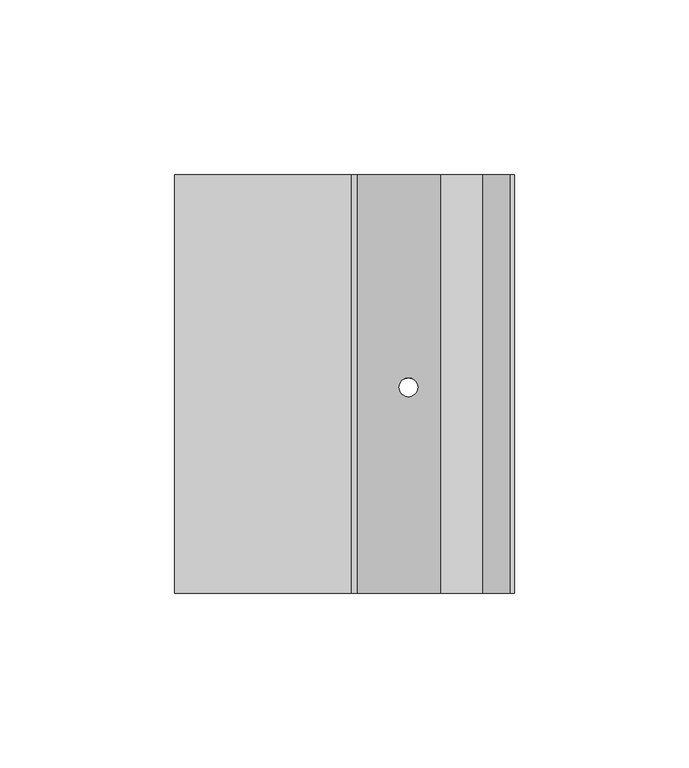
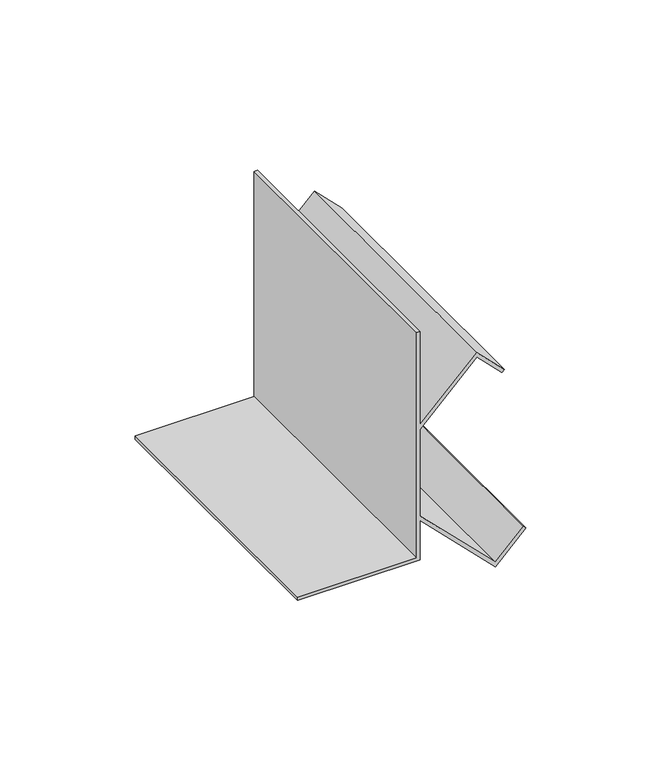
"""IFC4 building model written with IfcOpenShell, lengths in millimetres: proxy geometry, Mechanical Fittings & Accessories15 : Mechanical Fittings & Accessories."""

from ifc_helpers import new_model, si_unit, frame, origin, place, context, project, spatial, polyline, ellipse_curve, source, transform, mapped, element, save
from ifc_brep_helpers import plane_surface, revolved_surface, advanced_brep


def generic_models_6ec0f59a(model_context):
    return source(origin(), model_context, "Body", "AdvancedBrep", [
        advanced_brep(
        [(-12208.7639562, 7051.4963986, 4114.8), (-12259.5639562, 7051.4963986, 4114.8), (-12259.5639562, 7051.4963986, 4113.3117188), (-12207.275675, 7051.4963986, 4113.3117188), (-12207.275675, 7051.4963986, 4131.1383509), (-12175.165914, 7051.4963986, 4099.0285899), (-12162.1869427, 7051.4963986, 4112.0075612), (-12163.2393164, 7051.4963986, 4113.059935), (-12175.165914, 7051.4963986, 4101.1333374), (-12207.275675, 7051.4963986, 4133.2430984), (-12207.275675, 7051.4963986, 4172.2761118), (-12183.103414, 7051.4963986, 4196.4483729), (-12172.3674414, 7051.4963986, 4185.7124003), (-12171.3150677, 7051.4963986, 4186.7647741), (-12183.103414, 7051.4963986, 4198.5531204), (-12207.275675, 7051.4963986, 4174.3808594), (-12207.275675, 7051.4963986, 4216.4), (-12208.7639562, 7051.4963986, 4216.4), (-12208.7639562, 7171.4645457, 4114.8), (-12208.7639562, 7171.4645457, 4216.4), (-12207.275675, 7171.4645457, 4216.4), (-12207.275675, 7171.4645457, 4174.3808594), (-12183.103414, 7171.4645457, 4198.5531204), (-12171.3150677, 7171.4645457, 4186.7647741), (-12172.3674414, 7171.4645457, 4185.7124003), (-12183.103414, 7171.4645457, 4196.4483729), (-12207.275675, 7171.4645457, 4172.2761118), (-12207.275675, 7171.4645457, 4133.2430984), (-12175.165914, 7171.4645457, 4101.1333374), (-12163.2393164, 7171.4645457, 4113.059935), (-12162.1869427, 7171.4645457, 4112.0075612), (-12175.165914, 7171.4645457, 4099.0285899), (-12207.275675, 7171.4645457, 4131.1383509), (-12207.275675, 7171.4645457, 4113.3117188), (-12259.5639562, 7171.4645457, 4113.3117188), (-12259.5639562, 7171.4645457, 4114.8), (-12195.1617646, 7110.5191481, 4119.0244406), (-12189.8223978, 7110.5191481, 4113.6850737), (-12189.8223978, 7110.5191481, 4115.7898213), (-12195.1617646, 7110.5191481, 4121.1291881), (-12195.1617646, 7110.5191481, 4184.3900222), (-12189.8223978, 7110.5191481, 4189.729389), (-12189.8223978, 7110.5191481, 4191.8341365), (-12195.1617646, 7110.5191481, 4186.4947697)],
        [
            (0, 1),
            (1, 2),
            (2, 3),
            (3, 4),
            (4, 5),
            (5, 6),
            (6, 7),
            (7, 8),
            (8, 9),
            (9, 10),
            (10, 11),
            (11, 12),
            (12, 13),
            (13, 14),
            (14, 15),
            (15, 16),
            (16, 17),
            (17, 0),
            (18, 19),
            (19, 20),
            (20, 21),
            (21, 22),
            (22, 23),
            (23, 24),
            (24, 25),
            (25, 26),
            (26, 27),
            (27, 28),
            (28, 29),
            (29, 30),
            (30, 31),
            (31, 32),
            (32, 33),
            (33, 34),
            (34, 35),
            (35, 18),
            (0, 18),
            (35, 1),
            (34, 2),
            (33, 3),
            (32, 4),
            (31, 5),
            (36, 37, ellipse_curve(frame((-12192.4920812, 7110.5191481, 4116.3547571), z_axis=(0.7071067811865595, 0.0, 0.7071067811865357), x_axis=(-0.7071067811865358, 0.0, 0.7071067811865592)), 3.7755025, 2.6696834)),
            (37, 36, ellipse_curve(frame((-12192.4920812, 7110.5191481, 4116.3547571), z_axis=(0.7071067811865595, 0.0, 0.7071067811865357), x_axis=(-0.7071067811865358, 0.0, 0.7071067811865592)), 3.7755025, 2.6696834)),
            (30, 6),
            (29, 7),
            (28, 8),
            (27, 9),
            (38, 39, ellipse_curve(frame((-12192.4920812, 7110.5191481, 4118.4595047), z_axis=(-0.7071067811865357, 0.0, -0.7071067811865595), x_axis=(-0.7071067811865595, 0.0, 0.7071067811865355)), 3.7755025, 2.6696834)),
            (39, 38, ellipse_curve(frame((-12192.4920812, 7110.5191481, 4118.4595047), z_axis=(-0.7071067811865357, 0.0, -0.7071067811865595), x_axis=(-0.7071067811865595, 0.0, 0.7071067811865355)), 3.7755025, 2.6696834)),
            (26, 10),
            (25, 11),
            (40, 41, ellipse_curve(frame((-12192.4920812, 7110.5191481, 4187.0597056), z_axis=(-0.7071067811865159, 0.0, 0.7071067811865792), x_axis=(0.7071067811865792, 0.0, 0.7071067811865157)), 3.7755025, 2.6696834)),
            (41, 40, ellipse_curve(frame((-12192.4920812, 7110.5191481, 4187.0597056), z_axis=(-0.7071067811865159, 0.0, 0.7071067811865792), x_axis=(0.7071067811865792, 0.0, 0.7071067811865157)), 3.7755025, 2.6696834)),
            (24, 12),
            (23, 13),
            (22, 14),
            (21, 15),
            (42, 43, ellipse_curve(frame((-12192.4920812, 7110.5191481, 4189.1644531), z_axis=(0.7071067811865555, 0.0, -0.7071067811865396), x_axis=(0.7071067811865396, 0.0, 0.7071067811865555)), 3.7755025, 2.6696834)),
            (43, 42, ellipse_curve(frame((-12192.4920812, 7110.5191481, 4189.1644531), z_axis=(0.7071067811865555, 0.0, -0.7071067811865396), x_axis=(0.7071067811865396, 0.0, 0.7071067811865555)), 3.7755025, 2.6696834)),
            (20, 16),
            (19, 17),
            (36, 39),
            (38, 37),
            (40, 43),
            (42, 41),
        ],
        [
            plane_surface(frame((-12259.5639562, 7051.4963986, 4114.8), z_axis=(0.0, -1.0, 0.0), x_axis=(-1.0, 0.0, 0.0))),
            plane_surface(frame((-12259.5639562, 7171.4645457, 4114.8), z_axis=(0.0, 1.0, 0.0), x_axis=(1.0, 0.0, 0.0))),
            plane_surface(frame((-12208.7639562, 7051.4963986, 4114.8), z_axis=(0.0, 0.0, 1.0), x_axis=(0.0, 1.0, 0.0))),
            plane_surface(frame((-12259.5639562, 7051.4963986, 4114.8), z_axis=(-1.0, 0.0, 1.4551915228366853e-12), x_axis=(0.0, 1.0, 0.0))),
            plane_surface(frame((-12259.5639562, 7051.4963986, 4113.3117188), z_axis=(0.0, 0.0, -1.0), x_axis=(0.0, 1.0, 0.0))),
            plane_surface(frame((-12207.275675, 7051.4963986, 4113.3117188), z_axis=(1.0, 0.0, 0.0), x_axis=(0.0, 1.0, 0.0))),
            plane_surface(frame((-12207.275675, 7051.4963986, 4131.1383509), z_axis=(-0.7071067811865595, 0.0, -0.7071067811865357), x_axis=(0.0, 1.0, 0.0))),
            plane_surface(frame((-12175.165914, 7051.4963986, 4099.0285899), z_axis=(0.7071067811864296, 0.0, -0.7071067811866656), x_axis=(0.0, 1.0, 0.0))),
            plane_surface(frame((-12162.1869427, 7051.4963986, 4112.0075612), z_axis=(0.7071067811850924, 0.0, 0.7071067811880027), x_axis=(0.0, 1.0, 0.0))),
            plane_surface(frame((-12163.2393164, 7051.4963986, 4113.059935), z_axis=(-0.7071067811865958, 0.0, 0.7071067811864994), x_axis=(0.0, 1.0, 0.0))),
            plane_surface(frame((-12175.165914, 7051.4963986, 4101.1333374), z_axis=(0.7071067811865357, 0.0, 0.7071067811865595), x_axis=(0.0, 1.0, 0.0))),
            plane_surface(frame((-12207.275675, 7051.4963986, 4133.2430984), z_axis=(1.0, 0.0, 0.0), x_axis=(0.0, 1.0, 0.0))),
            plane_surface(frame((-12207.275675, 7051.4963986, 4172.2761118), z_axis=(0.7071067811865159, 0.0, -0.7071067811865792), x_axis=(0.0, 1.0, 0.0))),
            plane_surface(frame((-12183.103414, 7051.4963986, 4196.4483729), z_axis=(-0.7071067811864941, 0.0, -0.7071067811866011), x_axis=(0.0, 1.0, 0.0))),
            plane_surface(frame((-12172.3674414, 7051.4963986, 4185.7124003), z_axis=(0.7071067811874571, 0.0, -0.7071067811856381), x_axis=(0.0, 1.0, 0.0))),
            plane_surface(frame((-12171.3150677, 7051.4963986, 4186.7647741), z_axis=(0.707106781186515, 0.0, 0.70710678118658), x_axis=(0.0, 1.0, 0.0))),
            plane_surface(frame((-12183.103414, 7051.4963986, 4198.5531204), z_axis=(-0.7071067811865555, 0.0, 0.7071067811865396), x_axis=(0.0, 1.0, 0.0))),
            plane_surface(frame((-12207.275675, 7051.4963986, 4174.3808594), z_axis=(1.0, 0.0, 0.0), x_axis=(0.0, 1.0, 0.0))),
            plane_surface(frame((-12207.275675, 7051.4963986, 4216.4), z_axis=(0.0, 0.0, 1.0), x_axis=(0.0, 1.0, 0.0))),
            plane_surface(frame((-12208.7639562, 7051.4963986, 4216.4), z_axis=(-1.0, 0.0, 0.0), x_axis=(0.0, 1.0, 0.0))),
            revolved_surface(polyline([(-12189.8223978, 7110.5191481, 4121.129188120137), (-12189.8223978, 7110.5191481, 4113.685073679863)]), (-12192.4920812, 7110.5191481, 4097.2034211), (0.0, 0.0, 1.0)),
            revolved_surface(polyline([(-12189.8223978, 7110.5191481, 4191.834136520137), (-12189.8223978, 7110.5191481, 4184.390022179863)]), (-12192.4920812, 7110.5191481, 4097.2034211), (0.0, 0.0, 1.0)),
        ],
        [
            (0, [[1, 2, 3, 4, 5, 6, 7, 8, 9, 10, 11, 12, 13, 14, 15, 16, 17, 18]]),
            (1, [[19, 20, 21, 22, 23, 24, 25, 26, 27, 28, 29, 30, 31, 32, 33, 34, 35, 36]]),
            (2, [[-1, 37, -36, 38]]),
            (3, [[-2, -38, -35, 39]]),
            (4, [[-3, -39, -34, 40]]),
            (5, [[-4, -40, -33, 41]]),
            (6, [[-5, -41, -32, 42], [43, 44]]),
            (7, [[-6, -42, -31, 45]]),
            (8, [[-7, -45, -30, 46]]),
            (9, [[-8, -46, -29, 47]]),
            (10, [[-9, -47, -28, 48], [49, 50]]),
            (11, [[-10, -48, -27, 51]]),
            (12, [[-11, -51, -26, 52], [53, 54]]),
            (13, [[-12, -52, -25, 55]]),
            (14, [[-13, -55, -24, 56]]),
            (15, [[-14, -56, -23, 57]]),
            (16, [[-15, -57, -22, 58], [59, 60]]),
            (17, [[-16, -58, -21, 61]]),
            (18, [[-17, -61, -20, 62]]),
            (19, [[-18, -62, -19, -37]]),
            (20, [[63, -49, 64, -43]]),
            (21, [[65, -59, 66, -53]]),
            (20, [[-63, -44, -64, -50]]),
            (21, [[-65, -54, -66, -60]]),
        ],
    ),
    ])


if __name__ == "__main__":
    model = new_model("IFC4")
    model_context = context("Model", 3, world=origin())
    ifc_project = project(units=[si_unit("LENGTHUNIT", "METRE", prefix="MILLI")], contexts=[model_context])
    site = spatial("IfcSite", under=ifc_project)
    building = spatial("IfcBuilding", under=site)
    placement = place(None, origin())
    generic_models_shape = generic_models_6ec0f59a(model_context)
    element("IfcBuildingElementProxy", 1, Name="Mechanical Fittings & Accessories15 : Mechanical Fittings & Accessories", ObjectType="Mechanical Fittings & Accessories15 : Mechanical Fittings & Accessories", at=placement, inside=building, context=model_context, shape_type="MappedRepresentation", body=[
        mapped(generic_models_shape, transform((0.0, 0.0, 0.0), x_axis=(1.0, 0.0, 0.0), y_axis=(0.0, 1.0, 0.0), z_axis=(0.0, 0.0, 1.0))),
    ])
    save(model, "model.ifc")
